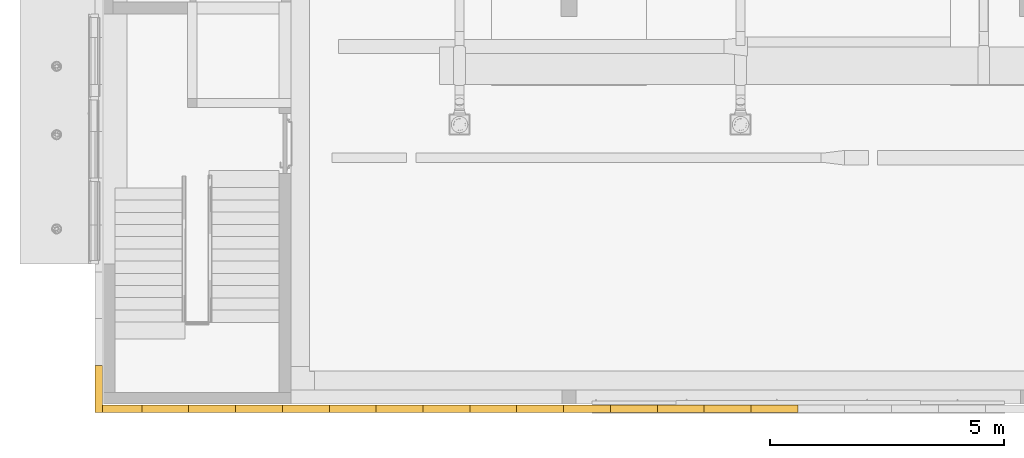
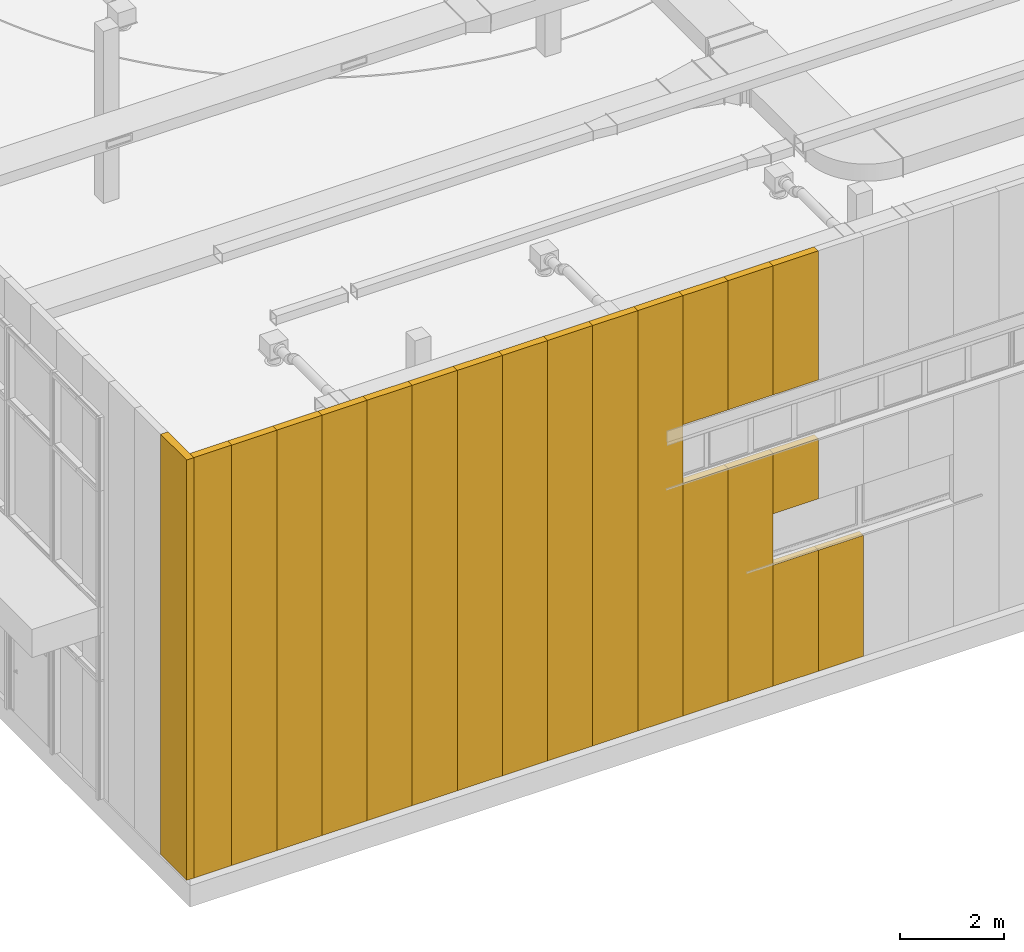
# One storey, part 214 of 302: 20 curtain walls, 2 elements without a shape of their own.
"""IFC2X3 building model written with IfcOpenShell, lengths in metres."""

from ifc_helpers import new_model, entity, si_unit, converted_unit, derived_unit, direction, frame, frame_2d, origin, place, context, subcontext, project, spatial, rectangle, extrude, material, layer, layer_set, layer_usage, type_object, element, aggregate, save


model = new_model("IFC2X3")

# Units and contexts
model_context = context("Model", 3, precision=1e-05, world=origin(), true_north=direction((6.12303176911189e-17, 1.0)))
body_context = subcontext(model_context, "Body", "Model", "MODEL_VIEW")
ifc_project = project(units=[si_unit("LENGTHUNIT", "METRE"), si_unit("AREAUNIT", "SQUARE_METRE"), si_unit("VOLUMEUNIT", "CUBIC_METRE"), converted_unit("PLANEANGLEUNIT", "DEGREE", entity("IfcRatioMeasure", 0.0174532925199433), si_unit("PLANEANGLEUNIT", "RADIAN"), dimensions=[0, 0, 0, 0, 0, 0, 0]), si_unit("MASSUNIT", "GRAM", prefix="KILO"), derived_unit("MASSDENSITYUNIT", [(si_unit("MASSUNIT", "GRAM", prefix="KILO"), 1), (si_unit("LENGTHUNIT", "METRE"), -3)]), derived_unit("MOMENTOFINERTIAUNIT", [(si_unit("LENGTHUNIT", "METRE"), 4)]), si_unit("TIMEUNIT", "SECOND"), si_unit("FREQUENCYUNIT", "HERTZ"), si_unit("THERMODYNAMICTEMPERATUREUNIT", "DEGREE_CELSIUS"), derived_unit("THERMALTRANSMITTANCEUNIT", [(si_unit("MASSUNIT", "GRAM", prefix="KILO"), 1), (si_unit("THERMODYNAMICTEMPERATUREUNIT", "KELVIN"), -1), (si_unit("TIMEUNIT", "SECOND"), -3)]), derived_unit("VOLUMETRICFLOWRATEUNIT", [(si_unit("LENGTHUNIT", "METRE"), 3), (si_unit("TIMEUNIT", "SECOND"), -1)]), si_unit("ELECTRICCURRENTUNIT", "AMPERE"), si_unit("ELECTRICVOLTAGEUNIT", "VOLT"), si_unit("POWERUNIT", "WATT"), si_unit("FORCEUNIT", "NEWTON", prefix="KILO"), si_unit("ILLUMINANCEUNIT", "LUX"), si_unit("LUMINOUSFLUXUNIT", "LUMEN"), si_unit("LUMINOUSINTENSITYUNIT", "CANDELA"), derived_unit("USERDEFINED", [(si_unit("MASSUNIT", "GRAM", prefix="KILO"), -1), (si_unit("LENGTHUNIT", "METRE"), -2), (si_unit("TIMEUNIT", "SECOND"), 3), (si_unit("LUMINOUSFLUXUNIT", "LUMEN"), 1)]), derived_unit("LINEARVELOCITYUNIT", [(si_unit("LENGTHUNIT", "METRE"), 1), (si_unit("TIMEUNIT", "SECOND"), -1)]), si_unit("PRESSUREUNIT", "PASCAL"), derived_unit("USERDEFINED", [(si_unit("LENGTHUNIT", "METRE"), -2), (si_unit("MASSUNIT", "GRAM", prefix="KILO"), 1), (si_unit("TIMEUNIT", "SECOND"), -2)]), derived_unit("LINEARFORCEUNIT", [(si_unit("MASSUNIT", "GRAM", prefix="KILO"), 1), (si_unit("LENGTHUNIT", "METRE"), 1), (si_unit("TIMEUNIT", "SECOND"), -2), (si_unit("LENGTHUNIT", "METRE"), -1)]), derived_unit("PLANARFORCEUNIT", [(si_unit("MASSUNIT", "GRAM", prefix="KILO"), 1), (si_unit("LENGTHUNIT", "METRE"), 1), (si_unit("TIMEUNIT", "SECOND"), -2), (si_unit("LENGTHUNIT", "METRE"), -2)])], contexts=[model_context])

# Site, building, storey
site_placement = place(None, origin())
site = spatial("IfcSite", under=ifc_project, at=site_placement, Name="Default", CompositionType="ELEMENT")
building_placement = place(site_placement, origin())
building = spatial("IfcBuilding", under=site, at=building_placement, CompositionType="ELEMENT")
storey_placement = place(building_placement, frame((0.0, 0.0, -1.3)))
storey = spatial("IfcBuildingStorey", under=building, at=storey_placement, Name="00_EG", CompositionType="ELEMENT", Elevation=-1.3)

# Curtain walls
curtain_wall_type_1 = type_object("IfcCurtainWallType", Name="Fassade:Sandwichpaneele 16cm", PredefinedType="NOTDEFINED")
curtain_wall_1_placement = place(storey_placement, frame((0.0, 0.0, 1.3)))
curtain_wall_1 = element("IfcCurtainWall", 1, at=curtain_wall_1_placement, inside=storey, type_object=curtain_wall_type_1, Name="Fassade:Sandwichpaneele 16cm", ObjectType="Fassade:Sandwichpaneele 16cm")
ifc_material_1 = material(Name="Prepainted_Steel-ArcelorMittal_Construction_HAIRULTRA-35-CORAL-4309-[RAL_3000]")
ifc_layer_1 = layer(ifc_material_1, 0.015)
ifc_material_2 = material(Name="ArcelorMittal-MineralWool")
ifc_layer_2 = layer(ifc_material_2, 0.13)
ifc_material_3 = material(Name="Prepainted_Steel-ArcelorMittal_Construction_INTÉRIEUR-12-WHITE-912")
ifc_layer_3 = layer(ifc_material_3, 0.015)
ifc_layer_set = layer_set([ifc_layer_1, ifc_layer_2, ifc_layer_3], Name="Fassade:Sandwichpaneele 16cm")
ifc_layer_usage_1 = layer_usage(ifc_layer_set, "AXIS2", "NEGATIVE", 0.08)
curtain_wall_type_2 = type_object("IfcCurtainWallType", Name="Basiswand:Sandwichpaneele d = 16cm aussen", PredefinedType="NOTDEFINED", material=ifc_layer_set)
curtain_wall_2_placement = place(storey_placement, frame((-266.760111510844, 14.818088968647, 1.27), z_axis=(0.0, 0.0, 1.0), x_axis=(0.0, 1.0, 0.0)))
curtain_wall_2 = element("IfcCurtainWall", 2, at=curtain_wall_2_placement, type_object=curtain_wall_type_2, material=ifc_layer_usage_1, Name="Basiswand:Sandwichpaneele d = 16cm aussen", ObjectType="Basiswand:Sandwichpaneele d = 16cm aussen", context=body_context, shape_type="SweptSolid", body=[
    extrude(rectangle(XDim=1.0000000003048, YDim=0.160000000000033, at=frame_2d((0.500000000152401, -2.35922392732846e-15), x_axis=(-1.0, 0.0))), origin(), (0.0, 0.0, 1.0), 9.8509),
])
aggregate(curtain_wall_1, [curtain_wall_2])

curtain_wall_3_placement = place(storey_placement, frame((0.0, 0.0, 1.3)))
curtain_wall_3 = element("IfcCurtainWall", 3, at=curtain_wall_3_placement, inside=storey, type_object=curtain_wall_type_1, Name="Fassade:Sandwichpaneele 16cm", ObjectType="Fassade:Sandwichpaneele 16cm")
ifc_layer_usage_2 = layer_usage(ifc_layer_set, "AXIS2", "POSITIVE", -0.08)
curtain_wall_4_placement = place(storey_placement, frame((-266.680111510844, 14.898088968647, 1.27)))
curtain_wall_4 = element("IfcCurtainWall", 4, at=curtain_wall_4_placement, type_object=curtain_wall_type_2, material=ifc_layer_usage_2, Name="Basiswand:Sandwichpaneele d = 16cm aussen", ObjectType="Basiswand:Sandwichpaneele d = 16cm aussen", context=body_context, shape_type="SweptSolid", body=[
    extrude(rectangle(XDim=0.840000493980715, YDim=0.159999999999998, at=frame_2d((0.420000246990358, 0.0), x_axis=(-1.0, 0.0))), origin(), (0.0, 0.0, 1.0), 9.8509),
])
ifc_layer_usage_3 = layer_usage(ifc_layer_set, "AXIS2", "POSITIVE", -0.08)
curtain_wall_5_placement = place(storey_placement, frame((-265.840111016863, 14.898088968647, 1.27)))
curtain_wall_5 = element("IfcCurtainWall", 5, at=curtain_wall_5_placement, type_object=curtain_wall_type_2, material=ifc_layer_usage_3, Name="Basiswand:Sandwichpaneele d = 16cm aussen", ObjectType="Basiswand:Sandwichpaneele d = 16cm aussen", context=body_context, shape_type="SweptSolid", body=[
    extrude(rectangle(XDim=1.00000000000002, YDim=0.159999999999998, at=frame_2d((0.500000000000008, 0.0), x_axis=(-1.0, 0.0))), origin(), (0.0, 0.0, 1.0), 9.8509),
])
ifc_layer_usage_4 = layer_usage(ifc_layer_set, "AXIS2", "POSITIVE", -0.08)
curtain_wall_6_placement = place(storey_placement, frame((-264.840111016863, 14.898088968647, 1.27)))
curtain_wall_6 = element("IfcCurtainWall", 6, at=curtain_wall_6_placement, type_object=curtain_wall_type_2, material=ifc_layer_usage_4, Name="Basiswand:Sandwichpaneele d = 16cm aussen", ObjectType="Basiswand:Sandwichpaneele d = 16cm aussen", context=body_context, shape_type="SweptSolid", body=[
    extrude(rectangle(XDim=0.999999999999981, YDim=0.159999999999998, at=frame_2d((0.49999999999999, 0.0), x_axis=(-1.0, 0.0))), origin(), (0.0, 0.0, 1.0), 9.8509),
])
ifc_layer_usage_5 = layer_usage(ifc_layer_set, "AXIS2", "POSITIVE", -0.08)
curtain_wall_7_placement = place(storey_placement, frame((-263.840111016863, 14.898088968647, 1.27)))
curtain_wall_7 = element("IfcCurtainWall", 7, at=curtain_wall_7_placement, type_object=curtain_wall_type_2, material=ifc_layer_usage_5, Name="Basiswand:Sandwichpaneele d = 16cm aussen", ObjectType="Basiswand:Sandwichpaneele d = 16cm aussen", context=body_context, shape_type="SweptSolid", body=[
    extrude(rectangle(XDim=1.00000000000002, YDim=0.159999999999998, at=frame_2d((0.500000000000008, 0.0), x_axis=(-1.0, 0.0))), origin(), (0.0, 0.0, 1.0), 9.8509),
])
ifc_layer_usage_6 = layer_usage(ifc_layer_set, "AXIS2", "POSITIVE", -0.08)
curtain_wall_8_placement = place(storey_placement, frame((-262.840111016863, 14.898088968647, 1.27)))
curtain_wall_8 = element("IfcCurtainWall", 8, at=curtain_wall_8_placement, type_object=curtain_wall_type_2, material=ifc_layer_usage_6, Name="Basiswand:Sandwichpaneele d = 16cm aussen", ObjectType="Basiswand:Sandwichpaneele d = 16cm aussen", context=body_context, shape_type="SweptSolid", body=[
    extrude(rectangle(XDim=0.999999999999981, YDim=0.159999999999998, at=frame_2d((0.49999999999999, 0.0), x_axis=(-1.0, 0.0))), origin(), (0.0, 0.0, 1.0), 9.8509),
])
ifc_layer_usage_7 = layer_usage(ifc_layer_set, "AXIS2", "POSITIVE", -0.08)
curtain_wall_9_placement = place(storey_placement, frame((-261.840111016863, 14.898088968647, 1.27)))
curtain_wall_9 = element("IfcCurtainWall", 9, at=curtain_wall_9_placement, type_object=curtain_wall_type_2, material=ifc_layer_usage_7, Name="Basiswand:Sandwichpaneele d = 16cm aussen", ObjectType="Basiswand:Sandwichpaneele d = 16cm aussen", context=body_context, shape_type="SweptSolid", body=[
    extrude(rectangle(XDim=1.00000000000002, YDim=0.159999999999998, at=frame_2d((0.500000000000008, 0.0), x_axis=(-1.0, 0.0))), origin(), (0.0, 0.0, 1.0), 9.8509),
])
ifc_layer_usage_8 = layer_usage(ifc_layer_set, "AXIS2", "POSITIVE", -0.08)
curtain_wall_10_placement = place(storey_placement, frame((-260.840111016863, 14.898088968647, 1.27)))
curtain_wall_10 = element("IfcCurtainWall", 10, at=curtain_wall_10_placement, type_object=curtain_wall_type_2, material=ifc_layer_usage_8, Name="Basiswand:Sandwichpaneele d = 16cm aussen", ObjectType="Basiswand:Sandwichpaneele d = 16cm aussen", context=body_context, shape_type="SweptSolid", body=[
    extrude(rectangle(XDim=1.00000000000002, YDim=0.159999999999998, at=frame_2d((0.500000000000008, 0.0), x_axis=(-1.0, 0.0))), origin(), (0.0, 0.0, 1.0), 9.8509),
])
ifc_layer_usage_9 = layer_usage(ifc_layer_set, "AXIS2", "POSITIVE", -0.08)
curtain_wall_11_placement = place(storey_placement, frame((-259.840111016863, 14.898088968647, 1.27)))
curtain_wall_11 = element("IfcCurtainWall", 11, at=curtain_wall_11_placement, type_object=curtain_wall_type_2, material=ifc_layer_usage_9, Name="Basiswand:Sandwichpaneele d = 16cm aussen", ObjectType="Basiswand:Sandwichpaneele d = 16cm aussen", context=body_context, shape_type="SweptSolid", body=[
    extrude(rectangle(XDim=0.999999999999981, YDim=0.159999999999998, at=frame_2d((0.49999999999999, 0.0), x_axis=(-1.0, 0.0))), origin(), (0.0, 0.0, 1.0), 9.8509),
])
ifc_layer_usage_10 = layer_usage(ifc_layer_set, "AXIS2", "POSITIVE", -0.08)
curtain_wall_12_placement = place(storey_placement, frame((-258.840111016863, 14.898088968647, 1.27)))
curtain_wall_12 = element("IfcCurtainWall", 12, at=curtain_wall_12_placement, type_object=curtain_wall_type_2, material=ifc_layer_usage_10, Name="Basiswand:Sandwichpaneele d = 16cm aussen", ObjectType="Basiswand:Sandwichpaneele d = 16cm aussen", context=body_context, shape_type="SweptSolid", body=[
    extrude(rectangle(XDim=1.00000000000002, YDim=0.159999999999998, at=frame_2d((0.500000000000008, 0.0), x_axis=(-1.0, 0.0))), origin(), (0.0, 0.0, 1.0), 9.8509),
])
ifc_layer_usage_11 = layer_usage(ifc_layer_set, "AXIS2", "POSITIVE", -0.08)
curtain_wall_13_placement = place(storey_placement, frame((-257.840111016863, 14.898088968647, 1.27)))
curtain_wall_13 = element("IfcCurtainWall", 13, at=curtain_wall_13_placement, type_object=curtain_wall_type_2, material=ifc_layer_usage_11, Name="Basiswand:Sandwichpaneele d = 16cm aussen", ObjectType="Basiswand:Sandwichpaneele d = 16cm aussen", context=body_context, shape_type="SweptSolid", body=[
    extrude(rectangle(XDim=0.999999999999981, YDim=0.159999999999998, at=frame_2d((0.49999999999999, 0.0), x_axis=(-1.0, 0.0))), origin(), (0.0, 0.0, 1.0), 9.8509),
])
ifc_layer_usage_12 = layer_usage(ifc_layer_set, "AXIS2", "POSITIVE", -0.08)
curtain_wall_14_placement = place(storey_placement, frame((-256.840111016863, 14.898088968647, 1.27)))
curtain_wall_14 = element("IfcCurtainWall", 14, at=curtain_wall_14_placement, type_object=curtain_wall_type_2, material=ifc_layer_usage_12, Name="Basiswand:Sandwichpaneele d = 16cm aussen", ObjectType="Basiswand:Sandwichpaneele d = 16cm aussen", context=body_context, shape_type="SweptSolid", body=[
    extrude(rectangle(XDim=1.00000000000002, YDim=0.159999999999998, at=frame_2d((0.500000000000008, 0.0), x_axis=(-1.0, 0.0))), origin(), (0.0, 0.0, 1.0), 9.8509),
])
ifc_layer_usage_13 = layer_usage(ifc_layer_set, "AXIS2", "POSITIVE", -0.08)
curtain_wall_15_placement = place(storey_placement, frame((-255.840111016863, 14.898088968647, 1.27)))
curtain_wall_15 = element("IfcCurtainWall", 15, at=curtain_wall_15_placement, type_object=curtain_wall_type_2, material=ifc_layer_usage_13, Name="Basiswand:Sandwichpaneele d = 16cm aussen", ObjectType="Basiswand:Sandwichpaneele d = 16cm aussen", context=body_context, shape_type="SweptSolid", body=[
    extrude(rectangle(XDim=0.999999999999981, YDim=0.159999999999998, at=frame_2d((0.49999999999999, 0.0), x_axis=(-1.0, 0.0))), origin(), (0.0, 0.0, 1.0), 5.44999999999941),
])
ifc_layer_usage_14 = layer_usage(ifc_layer_set, "AXIS2", "POSITIVE", -0.08)
curtain_wall_16_placement = place(storey_placement, frame((-254.840111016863, 14.898088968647, 1.27)))
curtain_wall_16 = element("IfcCurtainWall", 16, at=curtain_wall_16_placement, type_object=curtain_wall_type_2, material=ifc_layer_usage_14, Name="Basiswand:Sandwichpaneele d = 16cm aussen", ObjectType="Basiswand:Sandwichpaneele d = 16cm aussen", context=body_context, shape_type="SweptSolid", body=[
    extrude(rectangle(XDim=1.00000000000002, YDim=0.159999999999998, at=frame_2d((0.500000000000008, 0.0), x_axis=(-1.0, 0.0))), origin(), (0.0, 0.0, 1.0), 5.44999999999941),
])
ifc_layer_usage_15 = layer_usage(ifc_layer_set, "AXIS2", "POSITIVE", -0.08)
curtain_wall_17_placement = place(storey_placement, frame((-253.840111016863, 14.898088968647, 1.27)))
curtain_wall_17 = element("IfcCurtainWall", 17, at=curtain_wall_17_placement, type_object=curtain_wall_type_2, material=ifc_layer_usage_15, Name="Basiswand:Sandwichpaneele d = 16cm aussen", ObjectType="Basiswand:Sandwichpaneele d = 16cm aussen", context=body_context, shape_type="SweptSolid", body=[
    extrude(rectangle(XDim=1.00000000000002, YDim=0.159999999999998, at=frame_2d((0.500000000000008, 0.0), x_axis=(-1.0, 0.0))), origin(), (0.0, 0.0, 1.0), 2.83599999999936),
])
ifc_layer_usage_16 = layer_usage(ifc_layer_set, "AXIS2", "POSITIVE", -0.08)
curtain_wall_18_placement = place(storey_placement, frame((-252.840111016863, 14.898088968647, 1.27)))
curtain_wall_18 = element("IfcCurtainWall", 18, at=curtain_wall_18_placement, type_object=curtain_wall_type_2, material=ifc_layer_usage_16, Name="Basiswand:Sandwichpaneele d = 16cm aussen", ObjectType="Basiswand:Sandwichpaneele d = 16cm aussen", context=body_context, shape_type="SweptSolid", body=[
    extrude(rectangle(XDim=0.999999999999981, YDim=0.159999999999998, at=frame_2d((0.49999999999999, 0.0), x_axis=(-1.0, 0.0))), origin(), (0.0, 0.0, 1.0), 2.83599999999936),
])
ifc_layer_usage_17 = layer_usage(ifc_layer_set, "AXIS2", "POSITIVE", -0.08)
curtain_wall_19_placement = place(storey_placement, frame((-253.840111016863, 14.898088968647, 5.31000000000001)))
curtain_wall_19 = element("IfcCurtainWall", 19, at=curtain_wall_19_placement, type_object=curtain_wall_type_2, material=ifc_layer_usage_17, Name="Basiswand:Sandwichpaneele d = 16cm aussen", ObjectType="Basiswand:Sandwichpaneele d = 16cm aussen", context=body_context, shape_type="SweptSolid", body=[
    extrude(rectangle(XDim=1.00000000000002, YDim=0.159999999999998, at=frame_2d((0.500000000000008, 0.0), x_axis=(-1.0, 0.0))), origin(), (0.0, 0.0, 1.0), 1.40999999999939),
])
ifc_layer_usage_18 = layer_usage(ifc_layer_set, "AXIS2", "POSITIVE", -0.08)
curtain_wall_20_placement = place(storey_placement, frame((-255.840111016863, 14.898088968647, 8.09499999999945)))
curtain_wall_20 = element("IfcCurtainWall", 20, at=curtain_wall_20_placement, type_object=curtain_wall_type_2, material=ifc_layer_usage_18, Name="Basiswand:Sandwichpaneele d = 16cm aussen", ObjectType="Basiswand:Sandwichpaneele d = 16cm aussen", context=body_context, shape_type="SweptSolid", body=[
    extrude(rectangle(XDim=0.999999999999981, YDim=0.159999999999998, at=frame_2d((0.49999999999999, 0.0), x_axis=(-1.0, 0.0))), origin(), (0.0, 0.0, 1.0), 3.02590000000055),
])
ifc_layer_usage_19 = layer_usage(ifc_layer_set, "AXIS2", "POSITIVE", -0.08)
curtain_wall_21_placement = place(storey_placement, frame((-254.840111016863, 14.898088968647, 8.09499999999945)))
curtain_wall_21 = element("IfcCurtainWall", 21, at=curtain_wall_21_placement, type_object=curtain_wall_type_2, material=ifc_layer_usage_19, Name="Basiswand:Sandwichpaneele d = 16cm aussen", ObjectType="Basiswand:Sandwichpaneele d = 16cm aussen", context=body_context, shape_type="SweptSolid", body=[
    extrude(rectangle(XDim=1.00000000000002, YDim=0.159999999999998, at=frame_2d((0.500000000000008, 0.0), x_axis=(-1.0, 0.0))), origin(), (0.0, 0.0, 1.0), 3.02590000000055),
])
ifc_layer_usage_20 = layer_usage(ifc_layer_set, "AXIS2", "POSITIVE", -0.08)
curtain_wall_22_placement = place(storey_placement, frame((-253.840111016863, 14.898088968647, 8.09499999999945)))
curtain_wall_22 = element("IfcCurtainWall", 22, at=curtain_wall_22_placement, type_object=curtain_wall_type_2, material=ifc_layer_usage_20, Name="Basiswand:Sandwichpaneele d = 16cm aussen", ObjectType="Basiswand:Sandwichpaneele d = 16cm aussen", context=body_context, shape_type="SweptSolid", body=[
    extrude(rectangle(XDim=1.00000000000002, YDim=0.159999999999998, at=frame_2d((0.500000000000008, 0.0), x_axis=(-1.0, 0.0))), origin(), (0.0, 0.0, 1.0), 3.02590000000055),
])
aggregate(curtain_wall_3, [curtain_wall_4, curtain_wall_5, curtain_wall_6, curtain_wall_7, curtain_wall_8, curtain_wall_9, curtain_wall_10, curtain_wall_11, curtain_wall_12, curtain_wall_13, curtain_wall_14, curtain_wall_15, curtain_wall_16, curtain_wall_17, curtain_wall_18, curtain_wall_19, curtain_wall_20, curtain_wall_21, curtain_wall_22])

save(model, "model.ifc")
